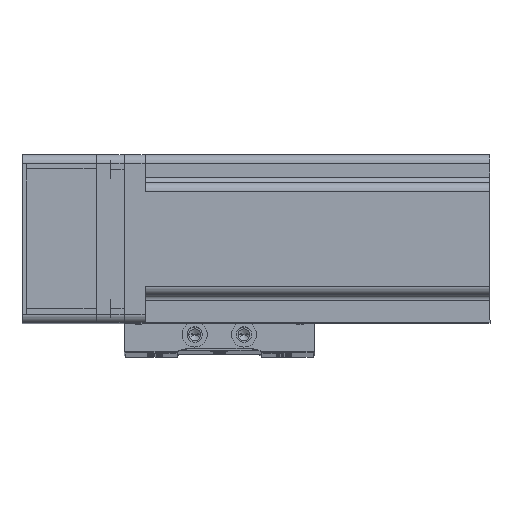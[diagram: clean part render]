
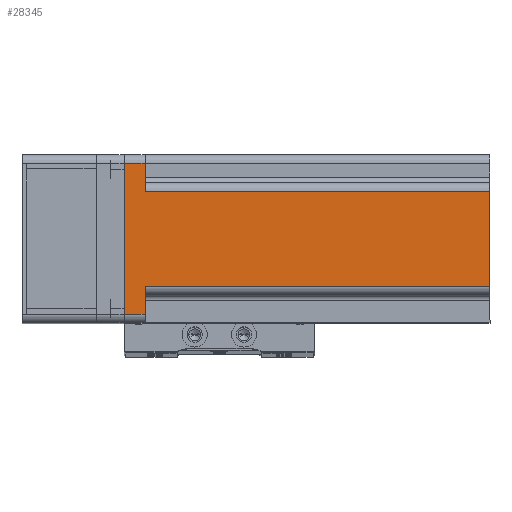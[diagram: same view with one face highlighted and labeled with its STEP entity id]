
A CAD part, top view. The second image highlights one B-rep face of the part: STEP entity #28345.
In plain terms, the highlighted planar face has unit normal (0, 0, 1) as drawn and (0, 1, 0) by its records, which use the part's own axes.
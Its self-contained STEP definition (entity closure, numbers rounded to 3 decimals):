
#490 = CARTESIAN_POINT ( 'NONE',  ( -27., 30., 7.5 ) ) ;
#2173 = VERTEX_POINT ( 'NONE', #36991 ) ;
#2459 = EDGE_CURVE ( 'NONE', #27980, #33061, #34188, .T. ) ;
#2624 = DIRECTION ( 'NONE',  ( 0., 0., 1. ) ) ;
#2803 = LINE ( 'NONE', #27807, #41366 ) ;
#3590 = VERTEX_POINT ( 'NONE', #28649 ) ;
#5153 = ORIENTED_EDGE ( 'NONE', *, *, #17612, .T. ) ;
#6239 = DIRECTION ( 'NONE',  ( -1., 0., 0. ) ) ;
#7786 = CARTESIAN_POINT ( 'NONE',  ( 30., 30., 130.7 ) ) ;
#7926 = DIRECTION ( 'NONE',  ( 0., 0., -1. ) ) ;
#10395 = VERTEX_POINT ( 'NONE', #11042 ) ;
#11042 = CARTESIAN_POINT ( 'NONE',  ( -17., 30., 130.7 ) ) ;
#11084 = VECTOR ( 'NONE', #21403, 1000. ) ;
#11851 = DIRECTION ( 'NONE',  ( 1., 0., 0. ) ) ;
#15696 = PLANE ( 'NONE',  #19023 ) ;
#16106 = LINE ( 'NONE', #50226, #45150 ) ;
#16337 = ORIENTED_EDGE ( 'NONE', *, *, #23814, .F. ) ;
#17612 = EDGE_CURVE ( 'NONE', #3590, #27980, #42694, .T. ) ;
#18652 = ORIENTED_EDGE ( 'NONE', *, *, #26625, .T. ) ;
#19023 = AXIS2_PLACEMENT_3D ( 'NONE', #7786, #35636, #11851 ) ;
#19283 = ORIENTED_EDGE ( 'NONE', *, *, #47712, .T. ) ;
#21403 = DIRECTION ( 'NONE',  ( 0., 0., 1. ) ) ;
#21576 = DIRECTION ( 'NONE',  ( -1., 0., 0. ) ) ;
#22661 = CARTESIAN_POINT ( 'NONE',  ( 27., 30., 130.7 ) ) ;
#23814 = EDGE_CURVE ( 'NONE', #31248, #44487, #16106, .T. ) ;
#23826 = ORIENTED_EDGE ( 'NONE', *, *, #30414, .T. ) ;
#25410 = CARTESIAN_POINT ( 'NONE',  ( -27., 30., 130.7 ) ) ;
#26625 = EDGE_CURVE ( 'NONE', #33061, #10395, #37805, .T. ) ;
#26693 = DIRECTION ( 'NONE',  ( 0., 0., -1. ) ) ;
#27788 = VECTOR ( 'NONE', #6239, 1000. ) ;
#27807 = CARTESIAN_POINT ( 'NONE',  ( 17., 30., 130.7 ) ) ;
#27980 = VERTEX_POINT ( 'NONE', #490 ) ;
#28345 = ADVANCED_FACE ( 'NONE', ( #51412 ), #15696, .F. ) ;
#28649 = CARTESIAN_POINT ( 'NONE',  ( -27., 30., 0. ) ) ;
#29011 = LINE ( 'NONE', #49821, #27788 ) ;
#29529 = LINE ( 'NONE', #22661, #38721 ) ;
#29634 = ORIENTED_EDGE ( 'NONE', *, *, #50251, .F. ) ;
#29725 = VERTEX_POINT ( 'NONE', #47780 ) ;
#30414 = EDGE_CURVE ( 'NONE', #29725, #3590, #29011, .T. ) ;
#31248 = VERTEX_POINT ( 'NONE', #43406 ) ;
#31314 = CARTESIAN_POINT ( 'NONE',  ( -17., 30., 7.5 ) ) ;
#32953 = VECTOR ( 'NONE', #42571, 1000. ) ;
#33061 = VERTEX_POINT ( 'NONE', #31314 ) ;
#33347 = CARTESIAN_POINT ( 'NONE',  ( 17., 30., 7.5 ) ) ;
#34188 = LINE ( 'NONE', #41513, #32953 ) ;
#34492 = CARTESIAN_POINT ( 'NONE',  ( -17., 30., 130.7 ) ) ;
#34495 = DIRECTION ( 'NONE',  ( -1., 0., 0. ) ) ;
#35619 = ORIENTED_EDGE ( 'NONE', *, *, #50523, .T. ) ;
#35636 = DIRECTION ( 'NONE',  ( 0., -1., 0. ) ) ;
#36562 = VECTOR ( 'NONE', #2624, 1000. ) ;
#36991 = CARTESIAN_POINT ( 'NONE',  ( 17., 30., 130.7 ) ) ;
#37805 = LINE ( 'NONE', #34492, #36562 ) ;
#38721 = VECTOR ( 'NONE', #26693, 1000. ) ;
#41366 = VECTOR ( 'NONE', #7926, 1000. ) ;
#41513 = CARTESIAN_POINT ( 'NONE',  ( -20., 30., 7.5 ) ) ;
#42571 = DIRECTION ( 'NONE',  ( 1., 0., 0. ) ) ;
#42694 = LINE ( 'NONE', #25410, #11084 ) ;
#43406 = CARTESIAN_POINT ( 'NONE',  ( 27., 30., 7.5 ) ) ;
#44487 = VERTEX_POINT ( 'NONE', #33347 ) ;
#44767 = EDGE_LOOP ( 'NONE', ( #47083, #18652, #29634, #35619, #16337, #19283, #23826, #5153 ) ) ;
#45150 = VECTOR ( 'NONE', #34495, 1000. ) ;
#47083 = ORIENTED_EDGE ( 'NONE', *, *, #2459, .T. ) ;
#47712 = EDGE_CURVE ( 'NONE', #31248, #29725, #29529, .T. ) ;
#47780 = CARTESIAN_POINT ( 'NONE',  ( 27., 30., 0. ) ) ;
#48858 = VECTOR ( 'NONE', #21576, 1000. ) ;
#49247 = CARTESIAN_POINT ( 'NONE',  ( 30., 30., 130.7 ) ) ;
#49821 = CARTESIAN_POINT ( 'NONE',  ( 30., 30., 0. ) ) ;
#50123 = LINE ( 'NONE', #49247, #48858 ) ;
#50226 = CARTESIAN_POINT ( 'NONE',  ( 20., 30., 7.5 ) ) ;
#50251 = EDGE_CURVE ( 'NONE', #2173, #10395, #50123, .T. ) ;
#50523 = EDGE_CURVE ( 'NONE', #2173, #44487, #2803, .T. ) ;
#51412 = FACE_OUTER_BOUND ( 'NONE', #44767, .T. ) ;
